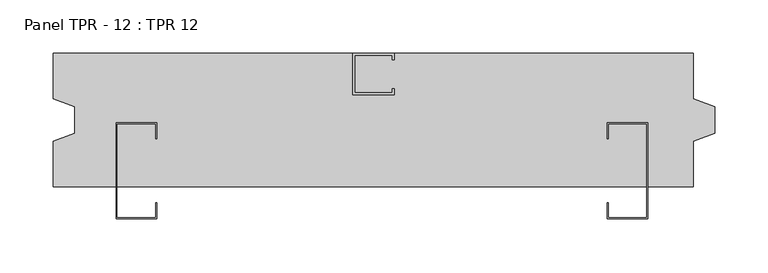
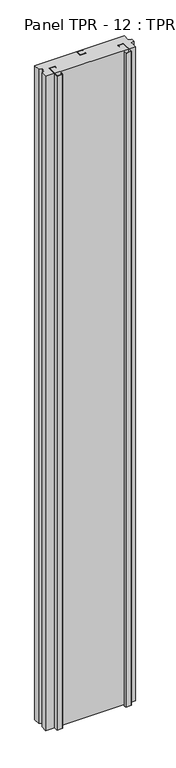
"""IFC4 building model written with IfcOpenShell, lengths in millimetres: plate geometry, Panel TPR - 12 : TPR 12."""

from ifc_helpers import new_model, si_unit, origin, origin_with_axes, place, context, project, spatial, polyline, outline, extrude, source, transform, mapped, element, save


def panel_tpr_12_tpr_12_b8065b1a(model_context):
    return source(origin(), model_context, "Body", "SweptSolid", [
        extrude(outline(polyline([(-19.5, 62.5), (19.5, 62.5), (19.5, 56.5), (17.5, 56.5), (17.5, 60.5), (-17.5, 60.5), (-17.5, 25.5), (17.5, 25.5), (17.5, 29.5), (19.5, 29.5), (19.5, 23.5), (-19.5, 23.5), (-19.5, 62.5)])), origin_with_axes(), (0.0, 0.0, 1.0), 4618.8021535),
        extrude(outline(polyline([(-203.2000002, -2.5), (-203.2000002, -17.5), (-204.0500002, -17.5), (-204.0500002, -3.35), (-240.3500002, -3.35), (-240.3500002, -91.65), (-204.0500002, -91.65), (-204.0500002, -77.5), (-203.2000002, -77.5), (-203.2000002, -92.5), (-241.2000002, -92.5), (-241.2000002, -2.5), (-203.2000002, -2.5)])), origin_with_axes(), (0.0, 0.0, 1.0), 4618.8021535),
        extrude(outline(polyline([(219.2000002, -2.5), (257.2000002, -2.5), (257.2000002, -92.5), (219.2000002, -92.5), (219.2000002, -77.5), (220.0500002, -77.5), (220.0500002, -91.65), (256.3500002, -91.65), (256.3500002, -3.35), (220.0500002, -3.35), (220.0500002, -17.5), (219.2000002, -17.5), (219.2000002, -2.5)])), origin_with_axes(), (0.0, 0.0, 1.0), 4618.8021535),
        extrude(outline(polyline([(-300.0, 62.5), (300.0, 62.5), (300.0, 20.0010038), (320.0, 12.5), (320.0, -12.5), (300.0, -20.0010038), (300.0, -62.5), (-300.0, -62.5), (-300.0, -20.0010038), (-280.0, -12.5), (-280.0, 12.5), (-300.0, 20.0010038), (-300.0, 62.5)])), origin_with_axes(), (0.0, 0.0, 1.0), 4618.8021535),
    ])


if __name__ == "__main__":
    model = new_model("IFC4")
    model_context = context("Model", 3, world=origin())
    ifc_project = project(units=[si_unit("LENGTHUNIT", "METRE", prefix="MILLI")], contexts=[model_context])
    site = spatial("IfcSite", under=ifc_project)
    building = spatial("IfcBuilding", under=site)
    placement = place(None, origin())
    panel_tpr_12_tpr_12_shape = panel_tpr_12_tpr_12_b8065b1a(model_context)
    element("IfcPlate", 1, ObjectType="Panel TPR - 12 : TPR 12", at=placement, inside=building, context=model_context, shape_type="MappedRepresentation", body=[
        mapped(panel_tpr_12_tpr_12_shape, transform((0.0, 0.0, 0.0), x_axis=(1.0, 0.0, 0.0), y_axis=(0.0, 1.0, 0.0), z_axis=(0.0, 0.0, 1.0))),
    ])
    save(model, "model.ifc")
